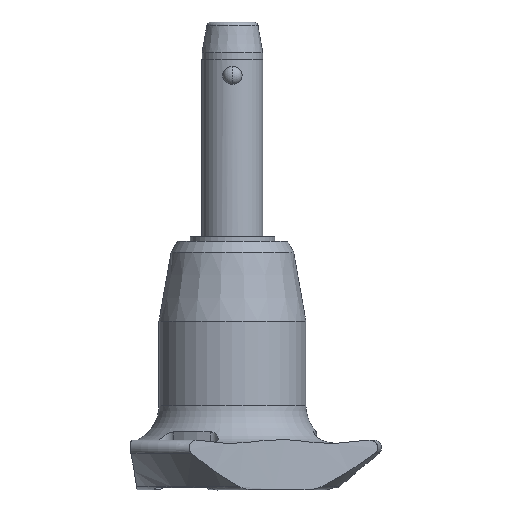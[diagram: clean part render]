
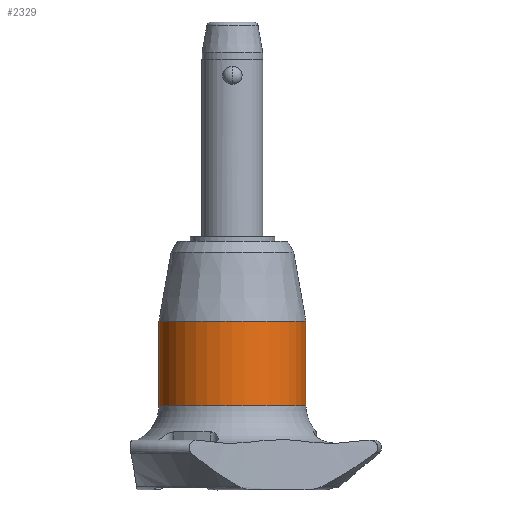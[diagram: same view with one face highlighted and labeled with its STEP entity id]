
A CAD part, front view. The second image highlights one B-rep face of the part: STEP entity #2329.
In plain terms, the highlighted cylindrical face has radius 9.65 mm (diameter 19.3 mm), a partial arc.
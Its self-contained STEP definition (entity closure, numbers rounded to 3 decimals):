
#133 = FACE_OUTER_BOUND ( 'NONE', #935, .T. ) ;
#188 = EDGE_CURVE ( 'NONE', #1434, #2259, #273, .T. ) ;
#273 = CIRCLE ( 'NONE', #552, 9.65 ) ;
#327 = CARTESIAN_POINT ( 'NONE',  ( -9.65, 0., -31.1 ) ) ;
#530 = DIRECTION ( 'NONE',  ( -1., 0., 0. ) ) ;
#533 = DIRECTION ( 'NONE',  ( -1., 0., 0. ) ) ;
#552 = AXIS2_PLACEMENT_3D ( 'NONE', #1612, #2493, #530 ) ;
#582 = DIRECTION ( 'NONE',  ( 0., 0., -1. ) ) ;
#622 = LINE ( 'NONE', #1679, #1381 ) ;
#631 = LINE ( 'NONE', #1778, #1419 ) ;
#666 = VERTEX_POINT ( 'NONE', #1870 ) ;
#778 = EDGE_CURVE ( 'NONE', #1434, #918, #631, .T. ) ;
#918 = VERTEX_POINT ( 'NONE', #1121 ) ;
#935 = EDGE_LOOP ( 'NONE', ( #1727, #967, #1780, #1502 ) ) ;
#967 = ORIENTED_EDGE ( 'NONE', *, *, #188, .T. ) ;
#1121 = CARTESIAN_POINT ( 'NONE',  ( 9.65, 0., -42.2 ) ) ;
#1346 = DIRECTION ( 'NONE',  ( 0., 0., -1. ) ) ;
#1381 = VECTOR ( 'NONE', #582, 1000. ) ;
#1399 = CARTESIAN_POINT ( 'NONE',  ( 9.65, 0., -31.1 ) ) ;
#1419 = VECTOR ( 'NONE', #1346, 1000. ) ;
#1434 = VERTEX_POINT ( 'NONE', #1399 ) ;
#1502 = ORIENTED_EDGE ( 'NONE', *, *, #1923, .F. ) ;
#1605 = AXIS2_PLACEMENT_3D ( 'NONE', #1673, #2318, #1883 ) ;
#1612 = CARTESIAN_POINT ( 'NONE',  ( 0., 0., -31.1 ) ) ;
#1614 = CYLINDRICAL_SURFACE ( 'NONE', #2349, 9.65 ) ;
#1673 = CARTESIAN_POINT ( 'NONE',  ( 0., 0., -42.2 ) ) ;
#1679 = CARTESIAN_POINT ( 'NONE',  ( -9.65, 0., -42.2 ) ) ;
#1727 = ORIENTED_EDGE ( 'NONE', *, *, #778, .F. ) ;
#1778 = CARTESIAN_POINT ( 'NONE',  ( 9.65, 0., -42.2 ) ) ;
#1780 = ORIENTED_EDGE ( 'NONE', *, *, #2815, .T. ) ;
#1870 = CARTESIAN_POINT ( 'NONE',  ( -9.65, 0., -42.2 ) ) ;
#1883 = DIRECTION ( 'NONE',  ( -1., 0., 0. ) ) ;
#1923 = EDGE_CURVE ( 'NONE', #918, #666, #2664, .T. ) ;
#2259 = VERTEX_POINT ( 'NONE', #327 ) ;
#2318 = DIRECTION ( 'NONE',  ( 0., 0., -1. ) ) ;
#2329 = ADVANCED_FACE ( 'NONE', ( #133 ), #1614, .T. ) ;
#2349 = AXIS2_PLACEMENT_3D ( 'NONE', #2496, #2723, #533 ) ;
#2493 = DIRECTION ( 'NONE',  ( 0., 0., -1. ) ) ;
#2496 = CARTESIAN_POINT ( 'NONE',  ( 0., 0., -42.2 ) ) ;
#2664 = CIRCLE ( 'NONE', #1605, 9.65 ) ;
#2723 = DIRECTION ( 'NONE',  ( 0., 0., -1. ) ) ;
#2815 = EDGE_CURVE ( 'NONE', #2259, #666, #622, .T. ) ;
